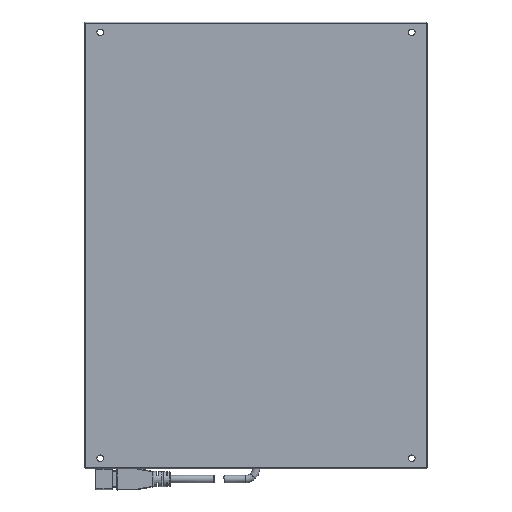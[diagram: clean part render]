
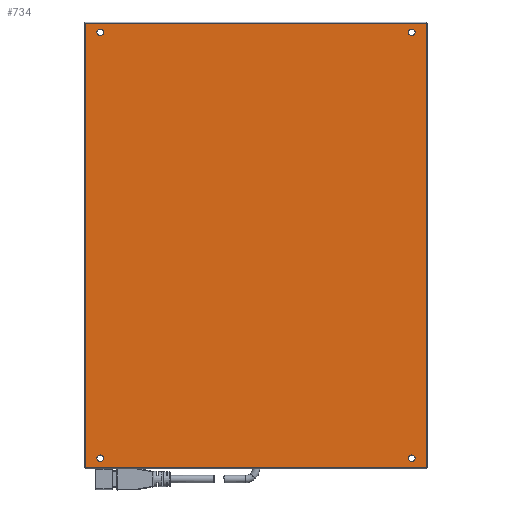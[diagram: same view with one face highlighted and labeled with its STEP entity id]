
A CAD part, front view. The second image highlights one B-rep face of the part: STEP entity #734.
In plain terms, the highlighted planar face has unit normal (0, -1, 0).
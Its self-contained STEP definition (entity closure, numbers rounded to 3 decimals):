
#1=DIRECTION('',(1.,0.,0.));
#2=VECTOR('',#1,164.);
#3=CARTESIAN_POINT('',(-82.,0.,107.));
#4=LINE('',#3,#2);
#5=DIRECTION('',(0.,0.,-1.));
#6=VECTOR('',#5,214.);
#7=CARTESIAN_POINT('',(82.,0.,107.));
#8=LINE('',#7,#6);
#9=DIRECTION('',(-1.,0.,0.));
#10=VECTOR('',#9,164.);
#11=CARTESIAN_POINT('',(82.,0.,-107.));
#12=LINE('',#11,#10);
#13=DIRECTION('',(0.,0.,1.));
#14=VECTOR('',#13,214.);
#15=CARTESIAN_POINT('',(-82.,0.,-107.));
#16=LINE('',#15,#14);
#17=CARTESIAN_POINT('',(-75.,0.,-102.5));
#18=DIRECTION('',(0.,-1.,0.));
#19=DIRECTION('',(0.,0.,1.));
#20=AXIS2_PLACEMENT_3D('',#17,#18,#19);
#22=CARTESIAN_POINT('',(-75.,0.,-102.5));
#23=DIRECTION('',(0.,-1.,0.));
#24=DIRECTION('',(0.,0.,-1.));
#25=AXIS2_PLACEMENT_3D('',#22,#23,#24);
#27=CARTESIAN_POINT('',(75.,0.,-102.5));
#28=DIRECTION('',(0.,-1.,0.));
#29=DIRECTION('',(0.,0.,1.));
#30=AXIS2_PLACEMENT_3D('',#27,#28,#29);
#32=CARTESIAN_POINT('',(75.,0.,-102.5));
#33=DIRECTION('',(0.,-1.,0.));
#34=DIRECTION('',(0.,0.,-1.));
#35=AXIS2_PLACEMENT_3D('',#32,#33,#34);
#37=CARTESIAN_POINT('',(-75.,0.,102.5));
#38=DIRECTION('',(0.,-1.,0.));
#39=DIRECTION('',(0.,0.,1.));
#40=AXIS2_PLACEMENT_3D('',#37,#38,#39);
#42=CARTESIAN_POINT('',(-75.,0.,102.5));
#43=DIRECTION('',(0.,-1.,0.));
#44=DIRECTION('',(0.,0.,-1.));
#45=AXIS2_PLACEMENT_3D('',#42,#43,#44);
#47=CARTESIAN_POINT('',(75.,0.,102.5));
#48=DIRECTION('',(0.,-1.,0.));
#49=DIRECTION('',(0.,0.,1.));
#50=AXIS2_PLACEMENT_3D('',#47,#48,#49);
#52=CARTESIAN_POINT('',(75.,0.,102.5));
#53=DIRECTION('',(0.,-1.,0.));
#54=DIRECTION('',(0.,0.,-1.));
#55=AXIS2_PLACEMENT_3D('',#52,#53,#54);
#531=CARTESIAN_POINT('',(-82.,0.,107.));
#532=CARTESIAN_POINT('',(82.,0.,107.));
#533=VERTEX_POINT('',#531);
#534=VERTEX_POINT('',#532);
#535=CARTESIAN_POINT('',(82.,0.,-107.));
#536=VERTEX_POINT('',#535);
#537=CARTESIAN_POINT('',(-82.,0.,-107.));
#538=VERTEX_POINT('',#537);
#539=CARTESIAN_POINT('',(-75.,0.,-100.9));
#540=CARTESIAN_POINT('',(-75.,0.,-104.1));
#541=VERTEX_POINT('',#539);
#542=VERTEX_POINT('',#540);
#543=CARTESIAN_POINT('',(75.,0.,-100.9));
#544=CARTESIAN_POINT('',(75.,0.,-104.1));
#545=VERTEX_POINT('',#543);
#546=VERTEX_POINT('',#544);
#547=CARTESIAN_POINT('',(-75.,0.,104.1));
#548=CARTESIAN_POINT('',(-75.,0.,100.9));
#549=VERTEX_POINT('',#547);
#550=VERTEX_POINT('',#548);
#551=CARTESIAN_POINT('',(75.,0.,104.1));
#552=CARTESIAN_POINT('',(75.,0.,100.9));
#553=VERTEX_POINT('',#551);
#554=VERTEX_POINT('',#552);
#695=CARTESIAN_POINT('',(0.,0.,0.));
#696=DIRECTION('',(0.,-1.,0.));
#697=DIRECTION('',(0.,0.,-1.));
#698=AXIS2_PLACEMENT_3D('',#695,#696,#697);
#699=PLANE('',#698);
#701=ORIENTED_EDGE('',*,*,#700,.T.);
#703=ORIENTED_EDGE('',*,*,#702,.T.);
#705=ORIENTED_EDGE('',*,*,#704,.T.);
#707=ORIENTED_EDGE('',*,*,#706,.T.);
#708=EDGE_LOOP('',(#701,#703,#705,#707));
#709=FACE_OUTER_BOUND('',#708,.F.);
#711=ORIENTED_EDGE('',*,*,#710,.T.);
#713=ORIENTED_EDGE('',*,*,#712,.T.);
#714=EDGE_LOOP('',(#711,#713));
#715=FACE_BOUND('',#714,.F.);
#717=ORIENTED_EDGE('',*,*,#716,.T.);
#719=ORIENTED_EDGE('',*,*,#718,.T.);
#720=EDGE_LOOP('',(#717,#719));
#721=FACE_BOUND('',#720,.F.);
#723=ORIENTED_EDGE('',*,*,#722,.T.);
#725=ORIENTED_EDGE('',*,*,#724,.T.);
#726=EDGE_LOOP('',(#723,#725));
#727=FACE_BOUND('',#726,.F.);
#729=ORIENTED_EDGE('',*,*,#728,.T.);
#731=ORIENTED_EDGE('',*,*,#730,.T.);
#732=EDGE_LOOP('',(#729,#731));
#733=FACE_BOUND('',#732,.F.);
#21=CIRCLE('',#20,1.6);
#26=CIRCLE('',#25,1.6);
#31=CIRCLE('',#30,1.6);
#36=CIRCLE('',#35,1.6);
#41=CIRCLE('',#40,1.6);
#46=CIRCLE('',#45,1.6);
#51=CIRCLE('',#50,1.6);
#56=CIRCLE('',#55,1.6);
#700=EDGE_CURVE('',#533,#534,#4,.T.);
#702=EDGE_CURVE('',#534,#536,#8,.T.);
#704=EDGE_CURVE('',#536,#538,#12,.T.);
#706=EDGE_CURVE('',#538,#533,#16,.T.);
#710=EDGE_CURVE('',#541,#542,#21,.T.);
#712=EDGE_CURVE('',#542,#541,#26,.T.);
#716=EDGE_CURVE('',#545,#546,#31,.T.);
#718=EDGE_CURVE('',#546,#545,#36,.T.);
#722=EDGE_CURVE('',#549,#550,#41,.T.);
#724=EDGE_CURVE('',#550,#549,#46,.T.);
#728=EDGE_CURVE('',#553,#554,#51,.T.);
#730=EDGE_CURVE('',#554,#553,#56,.T.);
#734=ADVANCED_FACE('',(#709,#715,#721,#727,#733),#699,.T.);
